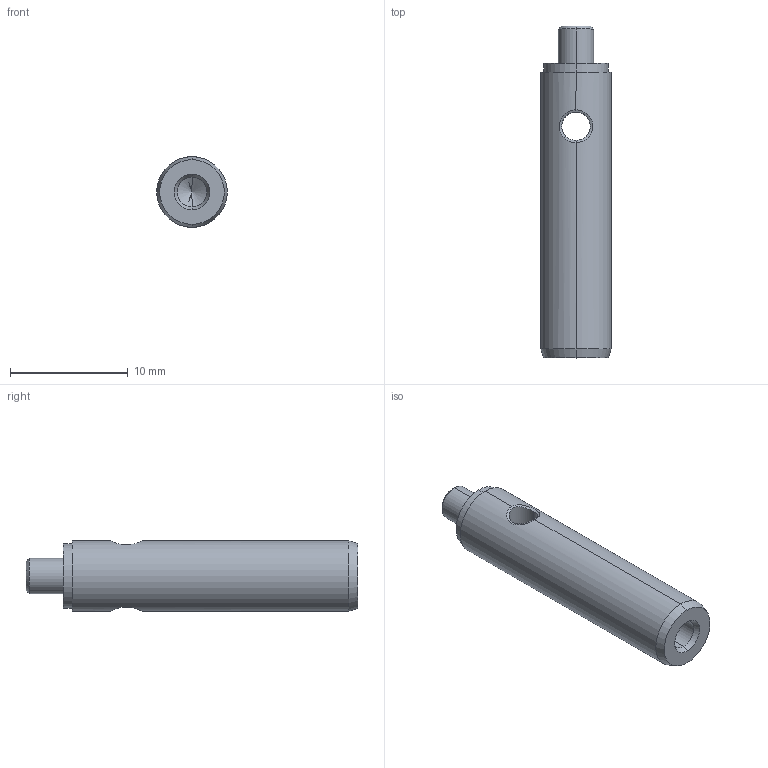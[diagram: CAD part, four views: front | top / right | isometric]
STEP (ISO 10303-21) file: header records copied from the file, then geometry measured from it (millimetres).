
FILE_DESCRIPTION (( 'STEP AP214' ), '1' );
FILE_NAME ('8574-E0W.STEP', '2018-04-12T14:33:38', ( '' ), ( '' ), 'SwSTEP 2.0', 'SolidWorks 2016', '' );
FILE_SCHEMA (( 'AUTOMOTIVE_DESIGN' ));
Length unit declared in the file: millimetre
Products named in the file (1): 8574-E0W
Bounding box: 5.99 x 28.17 x 5.99 mm (x, y, z)
Volume: 664.6 mm3; surface area: 689.8 mm2
Topology: 2 solids, 2 shells, 48 faces, 112 edges, 67 vertices
Faces by surface type: plane 18, cone 14, cylinder 12, bspline 4
Entity records: 4356 total; most frequent: CARTESIAN_POINT 2731, ORIENTED_EDGE 220, DIRECTION 206, EDGE_CURVE 110, AXIS2_PLACEMENT_3D 75, VERTEX_POINT 67, LINE 56, VECTOR 56
